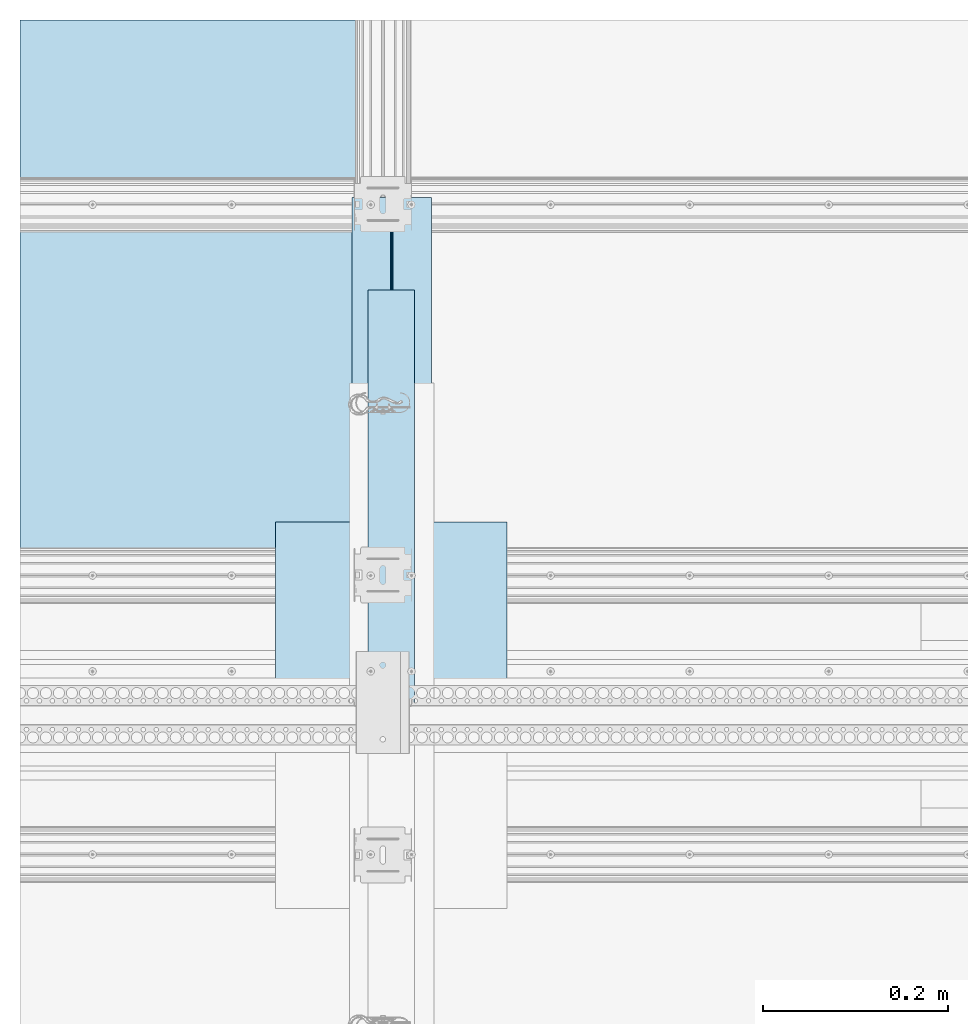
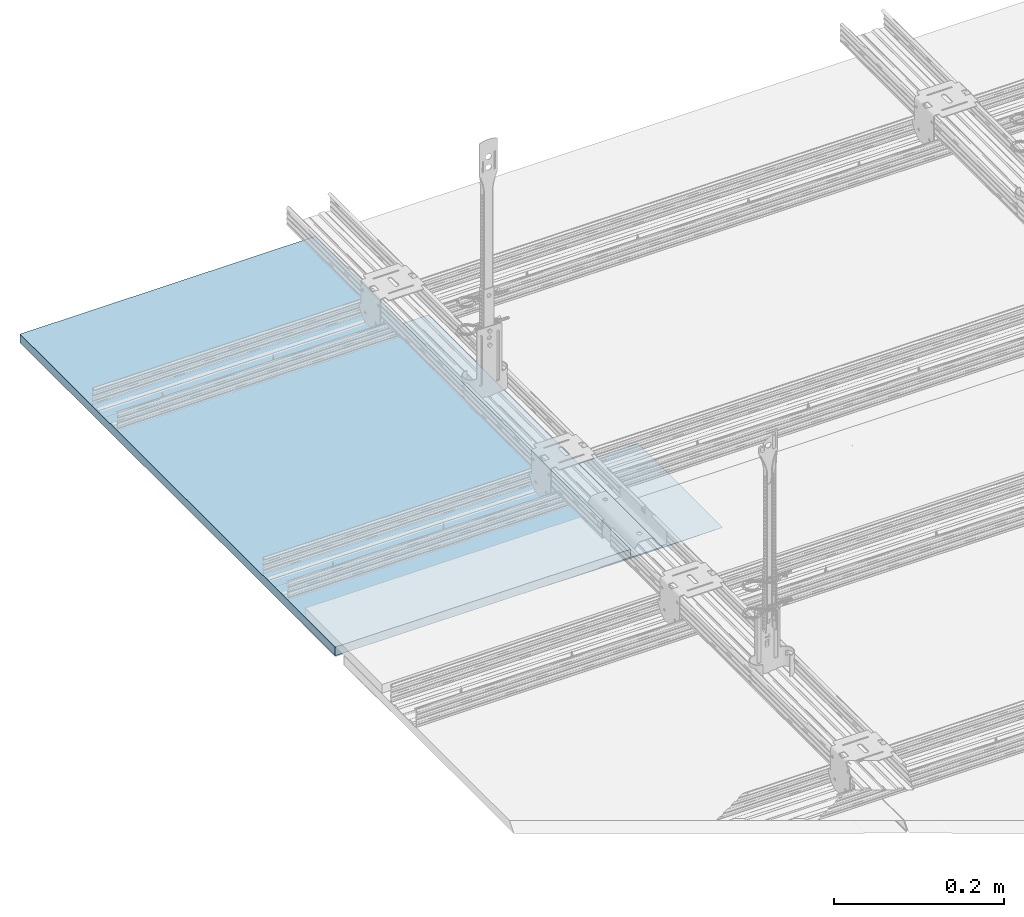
# One storey, part 6 of 56: 4 slabs.
"""IFC2X3 building model written with IfcOpenShell, lengths in millimetres."""

from ifc_helpers import new_model, entity, si_unit, converted_unit, direction, frame, origin, origin_with_axes, place, context, project, spatial, faceted_brep, element, save


model = new_model("IFC2X3")

# Units and contexts
model_context = context("Model", 3, precision=1e-05, world=origin(), true_north=direction((0.0, 1.0, 0.0)))
ifc_project = project(units=[si_unit("LENGTHUNIT", "METRE", prefix="MILLI"), si_unit("AREAUNIT", "SQUARE_METRE"), si_unit("VOLUMEUNIT", "CUBIC_METRE"), converted_unit("PLANEANGLEUNIT", "DEGREE", entity("IfcPlaneAngleMeasure", 0.01745), si_unit("PLANEANGLEUNIT", "RADIAN"), dimensions=[0, 0, 0, 0, 0, 0, 0]), si_unit("SOLIDANGLEUNIT", "STERADIAN"), si_unit("MASSUNIT", "GRAM"), si_unit("TIMEUNIT", "SECOND"), si_unit("THERMODYNAMICTEMPERATUREUNIT", "DEGREE_CELSIUS"), si_unit("LUMINOUSINTENSITYUNIT", "LUMEN")], contexts=[model_context])

# Site, building, storey
site_placement = place(None, origin_with_axes())
site = spatial("IfcSite", under=ifc_project, at=site_placement, Name="Default Site", CompositionType="ELEMENT")
building_placement = place(site_placement, origin_with_axes())
building = spatial("IfcBuilding", under=site, at=building_placement, Name="Default Building", CompositionType="ELEMENT")
storey_placement = place(building_placement, origin_with_axes())
storey = spatial("IfcBuildingStorey", under=building, at=storey_placement, Name="Default Building Storey", CompositionType="ELEMENT", Elevation=0.0)

# Slabs
slab_1_placement = place(storey_placement, frame((3262.898563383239, 1576.09462666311, 4371.841939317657), z_axis=(0.0, 1.0, 3.330669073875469e-16), x_axis=(1.0, 0.0, 0.0)))
element("IfcSlab", 1, at=slab_1_placement, inside=storey, Name="Dedykowana masa szpachlowa Rigips - wykończeniowa", context=model_context, shape_type="Brep", body=[
    faceted_brep([(-612.459216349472, 3390.556721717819, 2.449996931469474), (-862.459216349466, 3390.556721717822, 2.449996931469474), (-812.4612643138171, 3391.196716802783, 2.449996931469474), (-762.4602403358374, 3391.516720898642, 2.449996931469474), (-712.458192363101, 3391.51672089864, 2.449996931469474), (-662.4571683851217, 3391.19671680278, 2.449996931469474), (-762.4602403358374, 3391.516720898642, 200.8000000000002), (-812.4612643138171, 3391.196716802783, 200.8000000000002), (-862.459216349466, 3390.556721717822, 200.8000000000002), (-612.459216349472, 3390.556721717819, 200.8000000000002), (-662.4571683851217, 3391.19671680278, 200.8000000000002), (-712.458192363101, 3391.516720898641, 200.8000000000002)], [[[0, 1, 2, 3, 4, 5]], [[6, 7, 8, 9, 10, 11]], [[9, 0, 5, 10]], [[10, 5, 4, 11]], [[11, 4, 3, 6]], [[6, 3, 2, 7]], [[1, 8, 7, 2]], [[0, 9, 8, 1]]]),
])
slab_2_placement = place(storey_placement, frame((3262.898563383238, 1576.09462666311, 4371.641939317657), z_axis=(2.257951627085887e-47, 1.0, 3.330669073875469e-16), x_axis=(1.0, -2.257951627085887e-47, -7.520489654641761e-63)))
element("IfcSlab", 2, at=slab_2_placement, inside=storey, Name="Taśma spoinowa RIGIPS", context=model_context, shape_type="Brep", body=[
    faceted_brep([(-712.4592163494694, 3389.656721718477, 450.8), (-712.4592163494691, 3389.856721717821, 450.8), (-762.4592163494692, 3389.856721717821, 450.8), (-762.4592163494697, 3389.656721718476, 450.8), (-712.4592163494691, 3389.856721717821, 2.449996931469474), (-712.4592163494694, 3389.656721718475, 2.449996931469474), (-762.4592163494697, 3389.656721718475, 2.449996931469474), (-762.4592163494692, 3389.856721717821, 2.449996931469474)], [[[0, 1, 2, 3]], [[4, 5, 6, 7]], [[5, 0, 3, 6]], [[6, 3, 2, 7]], [[7, 2, 1, 4]], [[4, 1, 0, 5]]]),
])
slab_3_placement = place(storey_placement, frame((2480.439347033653, 2126.894626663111, 981.985217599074), z_axis=(0.0, 0.0, 1.0), x_axis=(1.0, 0.0, 0.0)))
element("IfcSlab", 3, at=slab_3_placement, inside=storey, Name="Dedykowana masa szpachlowa Rigips - konstrukcyjna", context=model_context, shape_type="Brep", body=[
    faceted_brep([(46.29289321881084, 1.804778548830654e-13, 0.5928932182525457), (46.29289321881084, -548.3500030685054, 0.5928932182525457), (46.13397459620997, -548.3500030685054, 0.7999999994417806), (46.13397459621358, 1.804778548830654e-13, 0.7999999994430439), (87.00000000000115, 0.0, 0.2999999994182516), (87.00000000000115, -548.3500030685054, 0.2999999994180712), (47.00000000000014, -548.3500030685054, 0.2999999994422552), (47.00000000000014, 0.0, 0.2999999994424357), (46.74118095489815, 0.0, 0.3340741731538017), (46.74118095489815, -548.3500030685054, 0.3340741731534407), (46.49999999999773, -548.3500030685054, 0.4339745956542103), (46.49999999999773, 1.804778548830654e-13, 0.4339745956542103), (2.799999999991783, 0.0, 1.804778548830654e-13), (88.1999999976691, 0.0, 0.0), (46.03407417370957, 0.0, 1.041180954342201), (45.99999999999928, 0.0, 1.299999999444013), (46.00000000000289, 0.0, 1.999999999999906), (44.99999999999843, 0.0, 1.999999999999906), (45.00000000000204, 0.0, 1.299999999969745), (44.96592582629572, 0.0, 1.041180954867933), (44.86602540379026, 0.0, 0.7999999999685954), (44.70710678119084, -1.804778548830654e-13, 0.5928932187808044), (44.50000000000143, 0.0, 0.4339745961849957), (44.2588190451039, 0.0, 0.3340741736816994), (44.00000000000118, 0.0, 0.2999999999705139), (3.999999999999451, 0.0, 0.3000000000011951), (46.03407417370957, -548.3500030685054, 1.041180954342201), (45.99999999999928, -548.3500030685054, 1.299999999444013), (88.1999999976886, -548.3500030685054, -1.804778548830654e-13), (46.00000000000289, -548.3500030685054, 1.999999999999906), (44.99999999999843, -548.3500030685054, 1.999999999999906), (2.799999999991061, -548.3500030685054, 0.0), (3.999999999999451, -548.3500030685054, 0.3000000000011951), (44.00000000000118, -548.3500030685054, 0.2999999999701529), (44.2588190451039, -548.3500030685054, 0.3340741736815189), (44.5000000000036, -548.3500030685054, 0.433974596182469), (44.70710678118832, -548.3500030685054, 0.5928932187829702), (44.86602540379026, -548.3500030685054, 0.7999999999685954), (44.96592582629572, -548.3500030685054, 1.041180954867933), (45.00000000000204, -548.3500030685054, 1.299999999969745)], [[[0, 1, 2, 3]], [[4, 5, 6, 7]], [[8, 9, 10, 11]], [[12, 13, 4, 7, 8, 11, 0, 3, 14, 15, 16, 17, 18, 19, 20, 21, 22, 23, 24, 25]], [[14, 26, 27, 15]], [[3, 2, 26, 14]], [[7, 6, 9, 8]], [[11, 10, 1, 0]], [[4, 13, 28, 5]], [[15, 27, 29, 16]], [[30, 29, 27, 26, 2, 1, 10, 9, 6, 5, 28, 31, 32, 33, 34, 35, 36, 37, 38, 39]], [[18, 17, 30, 39]], [[19, 38, 37, 20]], [[18, 39, 38, 19]], [[24, 33, 32, 25]], [[23, 34, 33, 24]], [[20, 37, 36, 21]], [[17, 16, 29, 30]], [[21, 36, 35, 22]], [[22, 35, 34, 23]], [[25, 32, 31, 12]], [[31, 28, 13, 12]]]),
])
slab_4_placement = place(storey_placement, frame((2525.439347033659, 2746.307050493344, 993.785217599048), z_axis=(-8.968310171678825e-44, 1.0, 3.330669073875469e-16), x_axis=(-1.0, -2.12807555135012e-28, 6.389333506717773e-13)))
element("IfcSlab", 4, at=slab_4_placement, inside=storey, Name="Płyta gipsowo-kartonowa RIGIPS PRO (4PRO™)", context=model_context, shape_type="Brep", body=[
    faceted_brep([(400.4142135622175, -12.4999999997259, -428.1320433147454), (400.4142135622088, 2.463522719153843e-10, -428.1320433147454), (400.4142135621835, 2.62053845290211e-10, -1167.762426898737), (400.4142135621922, -12.4999999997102, -1167.762426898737), (44.9999999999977, -12.50000000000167, -428.1320433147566), (40.9999999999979, -11.50000000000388, -428.1320433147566), (0.9999999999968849, -11.50000000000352, -428.1320433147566), (0.7411809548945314, -11.46592582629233, -428.1320433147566), (0.4999999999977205, -11.36602540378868, -428.1320433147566), (0.29289321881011, -11.20710678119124, -428.1320433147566), (0.1339745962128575, -11.00000000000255, -428.1320433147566), (0.03407417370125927, -10.75881904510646, -428.1320433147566), (-1.082867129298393e-12, -10.50000000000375, -428.1320433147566), (0.0, -3.609557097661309e-13, -428.1320433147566), (44.9999999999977, -12.49999999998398, -1167.762426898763), (40.9999999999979, -11.49999999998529, -1167.762426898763), (0.9999999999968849, -11.49999999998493, -1167.762426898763), (0.7411809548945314, -11.46592582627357, -1167.762426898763), (0.4999999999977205, -11.36602540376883, -1167.762426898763), (0.29289321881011, -11.20710678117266, -1167.762426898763), (0.1339745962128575, -10.99999999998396, -1167.762426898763), (0.03407417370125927, -10.75881904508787, -1167.762426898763), (-1.082867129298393e-12, -10.4999999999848, -1167.762426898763), (0.0, 1.858921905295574e-11, -1167.762426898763)], [[[0, 1, 2, 3]], [[0, 4, 5, 6, 7, 8, 9, 10, 11, 12, 13, 1]], [[3, 14, 4, 0]], [[5, 4, 14, 15]], [[6, 5, 15, 16]], [[7, 6, 16, 17]], [[8, 7, 17, 18]], [[9, 8, 18, 19]], [[10, 9, 19, 20]], [[11, 10, 20, 21]], [[12, 11, 21, 22]], [[13, 12, 22, 23]], [[2, 1, 13, 23]], [[14, 3, 2, 23, 22, 21, 20, 19, 18, 17, 16, 15]]]),
])

save(model, "model.ifc")
